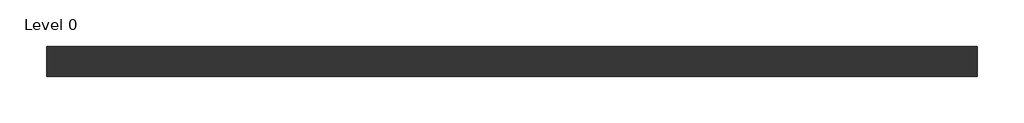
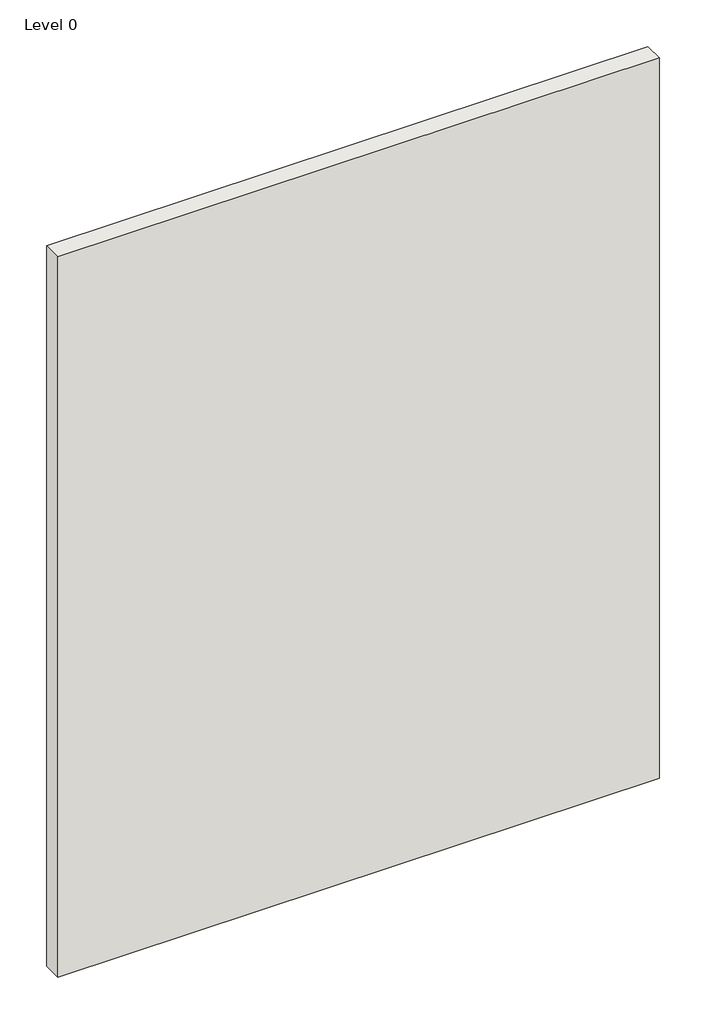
# One storey: 1 wall.
"""IFC4 building model written with IfcOpenShell, lengths in millimetres."""

import ifcopenshell
import ifcopenshell.guid

model = None  # the IFC model being written
_history = None  # IfcOwnerHistory: only IFC2X3 demands one
_inside = {}  # id of a spatial element -> (the spatial element, [elements in it])
_under = {}  # id of a project, library or spatial element -> (it, [spatial elements below it])
_declared = {}  # id of a project -> (the project, [libraries it declares])
_typed = {}  # id of a type object -> (the type object, [elements of that type])
_made_of = {}  # id of a material, layer set ... -> (it, [elements and type objects made of it])


def new_model(schema):
    """Start an empty IFC model of exactly this schema.

    Asked for "IFC4X3", IfcOpenShell would pick the latest addendum, in which some entities
    have other attributes; the version numbers below select the first issue.
    IFC2X3 requires an IfcOwnerHistory on every rooted entity: one is made here for all.
    """
    global model, _history
    if schema == "IFC4X3":
        model = ifcopenshell.file(schema_version=(4, 3, 0, 0))
    else:
        model = ifcopenshell.file(schema=schema)
    _inside.clear()
    _under.clear()
    _declared.clear()
    _typed.clear()
    _made_of.clear()
    _history = None
    if model.schema == "IFC2X3":
        org = make("IfcOrganization", Name="unknown")
        user = make(
            "IfcPersonAndOrganization",
            ThePerson=make("IfcPerson", FamilyName="unknown"),
            TheOrganization=org,
        )
        app = make(
            "IfcApplication",
            ApplicationDeveloper=org,
            Version="unknown",
            ApplicationFullName="unknown",
            ApplicationIdentifier="unknown",
        )
        _history = make(
            "IfcOwnerHistory",
            OwningUser=user,
            OwningApplication=app,
            ChangeAction="ADDED",
            CreationDate=0,
        )
    return model


def make(cls, **values):
    """One entity of the class cls with the attributes given. An attribute that is None is left unset."""
    return model.create_entity(
        cls, **{name: value for name, value in values.items() if value is not None}
    )


def rooted(cls, **values):
    """An entity with a GlobalId (a new one), such as an element, a storey or a relation."""
    return make(cls, GlobalId=ifcopenshell.guid.new(), OwnerHistory=_history, **values)


def si_unit(unit_type, name, prefix=None):
    """IfcSIUnit, for example si_unit("LENGTHUNIT", "METRE", prefix="MILLI")."""
    return make("IfcSIUnit", UnitType=unit_type, Prefix=prefix, Name=name)


def assignment(units):
    """IfcUnitAssignment: the units of a project."""
    return None if units is None else make("IfcUnitAssignment", Units=units)


def point(xyz):
    """IfcCartesianPoint."""
    return None if xyz is None else make("IfcCartesianPoint", Coordinates=xyz)


def direction(xyz):
    """IfcDirection."""
    return None if xyz is None else make("IfcDirection", DirectionRatios=xyz)


def frame(location, z_axis=None, x_axis=None):
    """IfcAxis2Placement3D, a coordinate frame: its origin and axes. An axis left out is left unset."""
    return make(
        "IfcAxis2Placement3D",
        Location=point(location),
        Axis=direction(z_axis),
        RefDirection=direction(x_axis),
    )


def origin():
    """The frame at (0, 0, 0) with its axes left unset."""
    return frame((0.0, 0.0, 0.0))


def origin_with_axes():
    """The frame at (0, 0, 0) with the z axis (0, 0, 1) and the x axis (1, 0, 0) written out."""
    return frame((0.0, 0.0, 0.0), z_axis=(0.0, 0.0, 1.0), x_axis=(1.0, 0.0, 0.0))


def place(relative_to, where):
    """IfcLocalPlacement: puts the frame where relative to a parent placement (None: the world)."""
    return make(
        "IfcLocalPlacement", PlacementRelTo=relative_to, RelativePlacement=where
    )


def context(
    kind, dimensions, precision=None, world=None, true_north=None, identifier=None
):
    """IfcGeometricRepresentationContext, for example the 3D "Model" context."""
    return make(
        "IfcGeometricRepresentationContext",
        ContextIdentifier=identifier,
        ContextType=kind,
        CoordinateSpaceDimension=dimensions,
        Precision=precision,
        WorldCoordinateSystem=world,
        TrueNorth=true_north,
    )


def project(units=None, contexts=None):
    """IfcProject with its units and contexts."""
    return rooted(
        "IfcProject",
        Name="project",
        RepresentationContexts=contexts,
        UnitsInContext=assignment(units),
    )


def spatial(cls, under=None, at=None, **own):
    """A site, building, storey or space (cls), placed at a placement, below another one or the project."""
    s = rooted(cls, ObjectPlacement=at, **own)
    if under is not None:
        _under.setdefault(under.id(), (under, []))[1].append(s)
    return s


def polyline(points):
    """IfcPolyline through the points."""
    return make("IfcPolyline", Points=[point(p) for p in points])


def outline(outer, holes=None, kind="AREA"):
    """IfcArbitraryClosedProfileDef: a profile drawn as a closed curve; with holes, ...WithVoids."""
    if holes is None:
        return make("IfcArbitraryClosedProfileDef", ProfileType=kind, OuterCurve=outer)
    return make(
        "IfcArbitraryProfileDefWithVoids",
        ProfileType=kind,
        OuterCurve=outer,
        InnerCurves=holes,
    )


def extrude(swept, where, along, depth):
    """IfcExtrudedAreaSolid: the profile swept, set in the frame where, extruded along a direction by depth."""
    return make(
        "IfcExtrudedAreaSolid",
        SweptArea=swept,
        Position=where,
        ExtrudedDirection=direction(along),
        Depth=depth,
    )


def shape(context_of_items, identifier, shape_type, items):
    """IfcShapeRepresentation: the items that make up one representation, for example the "Body"."""
    return make(
        "IfcShapeRepresentation",
        ContextOfItems=context_of_items,
        RepresentationIdentifier=identifier,
        RepresentationType=shape_type,
        Items=items,
    )


def made_of(thing, what):
    """Note that an element or type object is made of a material, layer set ...; save() writes the relation."""
    if what is not None:
        _made_of.setdefault(what.id(), (what, []))[1].append(thing)
    return thing


def element(
    cls,
    number,
    at=None,
    inside=None,
    cuts=None,
    type_object=None,
    material=None,
    context=None,
    identifier="Body",
    shape_type=None,
    held_by="IfcProductDefinitionShape",
    body=None,
    shapes=None,
    **own,
):
    """One element of the class cls, such as IfcWall. Its Tag is "e" and its number.

    at: its placement. inside: the storey or other place that contains it. cuts: it is an
    opening in that element (IfcRelVoidsElement). A single representation is given by context,
    identifier, shape_type and body (its items); several are given by shapes. held_by: the class
    of the entity that holds the representations. save() writes the other relations.
    """
    e = rooted(cls, Tag="e%d" % number, ObjectPlacement=at, **own)
    if body is not None:
        shapes = [shape(context, identifier, shape_type, body)]
    if shapes is not None:
        e.Representation = make(held_by, Representations=shapes)
    if inside is not None:
        _inside.setdefault(inside.id(), (inside, []))[1].append(e)
    if cuts is not None:
        rooted(
            "IfcRelVoidsElement", RelatingBuildingElement=cuts, RelatedOpeningElement=e
        )
    if type_object is not None:
        _typed.setdefault(type_object.id(), (type_object, []))[1].append(e)
    return made_of(e, material)


def aggregate(whole, parts):
    """IfcRelAggregates: a whole, such as a stair, and the parts it consists of."""
    return rooted("IfcRelAggregates", RelatingObject=whole, RelatedObjects=parts)


def save(model, path):
    """Write the relations noted so far, then the file.

    IfcRelAggregates (storeys below a building ...), IfcRelContainedInSpatialStructure (elements
    in a storey), IfcRelDefinesByType, IfcRelAssociatesMaterial and IfcRelDeclares: one each for
    every whole, place, type object, material and project.
    """
    for whole, parts in _under.values():
        aggregate(whole, parts)
    for where, things in _inside.values():
        rooted(
            "IfcRelContainedInSpatialStructure",
            RelatedElements=things,
            RelatingStructure=where,
        )
    for kind, things in _typed.values():
        rooted("IfcRelDefinesByType", RelatedObjects=things, RelatingType=kind)
    for what, things in _made_of.values():
        rooted("IfcRelAssociatesMaterial", RelatedObjects=things, RelatingMaterial=what)
    for by, libraries in _declared.values():
        rooted("IfcRelDeclares", RelatingContext=by, RelatedDefinitions=libraries)
    model.write(path)


model = new_model("IFC4")

# Units and contexts
model_context = context("Model", 3, world=origin())
ifc_project = project(units=[si_unit("LENGTHUNIT", "METRE", prefix="MILLI")], contexts=[model_context])

# Site, building, storey
site = spatial("IfcSite", under=ifc_project)
building = spatial("IfcBuilding", under=site)
storey = spatial("IfcBuildingStorey", under=building, Name="Level 0", Elevation=0.0)

# Wall
placement = place(None, origin())
element("IfcWall", 1, ObjectType="A206A228 - GypWall CLASSIC", at=placement, inside=storey, context=model_context, shape_type="SweptSolid", body=[
    extrude(outline(polyline([(2116.0807354, 545.2205641), (-883.9192646, 545.2205641), (-883.9192646, 642.2205641), (2116.0807354, 642.2205641), (2116.0807354, 545.2205641)])), origin_with_axes(), (0.0, 0.0, 1.0), 3800.0),
])

save(model, "model.ifc")
